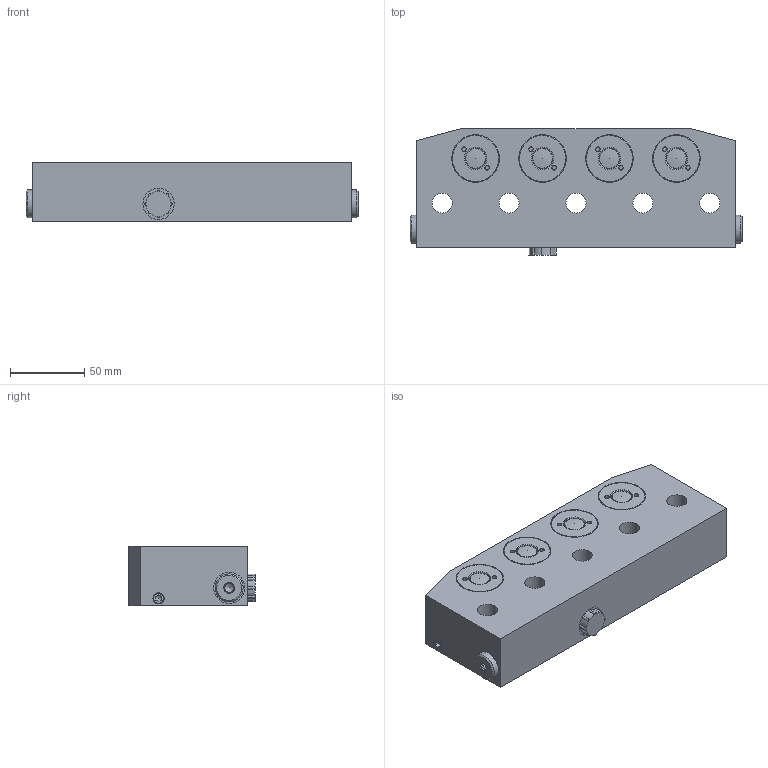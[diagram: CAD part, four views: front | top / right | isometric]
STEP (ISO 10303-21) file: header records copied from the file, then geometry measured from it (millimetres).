
FILE_DESCRIPTION((''),'2;1');
FILE_NAME('\\easAd\Users\jaccow\Desktop\MLC604-DQ1232-900.stp','2012-10-05T11:17:43',('jaccow'),(''),'Autodesk Inventor 2013','Autodesk Inventor 2013','');
FILE_SCHEMA(('AUTOMOTIVE_DESIGN { 1 0 10303 214 1 1 1 1 }'));
Length unit declared in the file: millimetre
Products named in the file (1): DQ1232-900_Shrinkwrap_1
Bounding box: 223.2 x 85 x 40 mm (x, y, z)
Volume: 606918.7 mm3; surface area: 112275.1 mm2
Topology: 5 solids, 9 shells, 413 faces, 925 edges, 576 vertices
Faces by surface type: plane 172, cylinder 133, torus 52, cone 48, bspline 8
Full cylindrical faces by diameter (mm): 3 x8, 5 x4, 6 x2, 6.561 x2, 9 x1, 10.8 x1, 11.2 x2, 11.445 x5, 11.6 x2, 13.5 x5, 13.95 x4, 14.1 x4, 16.4 x2, 16.8 x2, 17 x8, 18.8 x2, 19.5 x4, 20 x5, 20.663 x8, 21 x3, 23.5 x4, 23.97 x8, 24 x4, 24.02 x4, 32 x8, 33 x4
Entity records: 12503 total; most frequent: CARTESIAN_POINT 3833, DIRECTION 1832, ORIENTED_EDGE 1300, AXIS2_PLACEMENT_3D 831, EDGE_LOOP 720, EDGE_CURVE 650, VERTEX_POINT 514, CIRCLE 419
